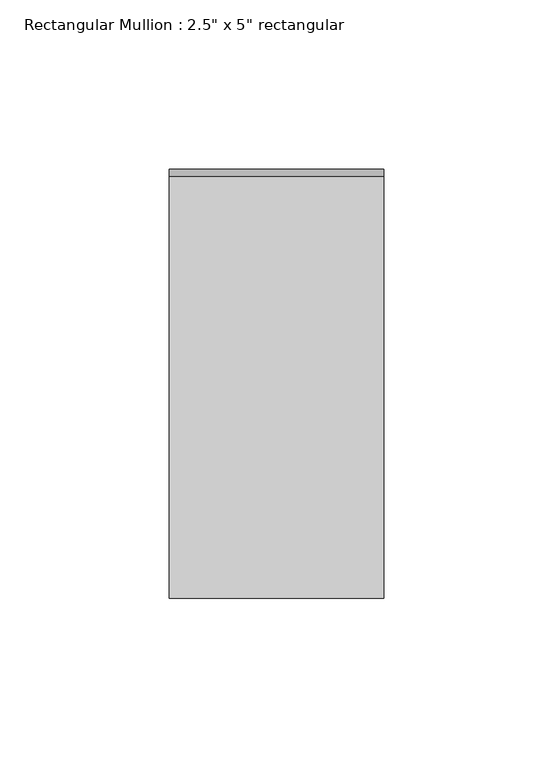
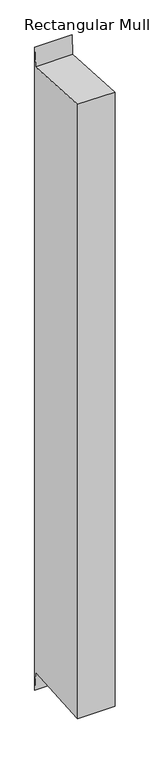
"""IFC4 building model written with IfcOpenShell, lengths in millimetres: member geometry."""

import ifcopenshell
import ifcopenshell.guid

model = None  # the IFC model being written
_history = None  # IfcOwnerHistory: only IFC2X3 demands one
_inside = {}  # id of a spatial element -> (the spatial element, [elements in it])
_under = {}  # id of a project, library or spatial element -> (it, [spatial elements below it])
_declared = {}  # id of a project -> (the project, [libraries it declares])
_typed = {}  # id of a type object -> (the type object, [elements of that type])
_made_of = {}  # id of a material, layer set ... -> (it, [elements and type objects made of it])


def new_model(schema):
    """Start an empty IFC model of exactly this schema.

    Asked for "IFC4X3", IfcOpenShell would pick the latest addendum, in which some entities
    have other attributes; the version numbers below select the first issue.
    IFC2X3 requires an IfcOwnerHistory on every rooted entity: one is made here for all.
    """
    global model, _history
    if schema == "IFC4X3":
        model = ifcopenshell.file(schema_version=(4, 3, 0, 0))
    else:
        model = ifcopenshell.file(schema=schema)
    _inside.clear()
    _under.clear()
    _declared.clear()
    _typed.clear()
    _made_of.clear()
    _history = None
    if model.schema == "IFC2X3":
        org = make("IfcOrganization", Name="unknown")
        user = make(
            "IfcPersonAndOrganization",
            ThePerson=make("IfcPerson", FamilyName="unknown"),
            TheOrganization=org,
        )
        app = make(
            "IfcApplication",
            ApplicationDeveloper=org,
            Version="unknown",
            ApplicationFullName="unknown",
            ApplicationIdentifier="unknown",
        )
        _history = make(
            "IfcOwnerHistory",
            OwningUser=user,
            OwningApplication=app,
            ChangeAction="ADDED",
            CreationDate=0,
        )
    return model


def make(cls, **values):
    """One entity of the class cls with the attributes given. An attribute that is None is left unset."""
    return model.create_entity(
        cls, **{name: value for name, value in values.items() if value is not None}
    )


def rooted(cls, **values):
    """An entity with a GlobalId (a new one), such as an element, a storey or a relation."""
    return make(cls, GlobalId=ifcopenshell.guid.new(), OwnerHistory=_history, **values)


def si_unit(unit_type, name, prefix=None):
    """IfcSIUnit, for example si_unit("LENGTHUNIT", "METRE", prefix="MILLI")."""
    return make("IfcSIUnit", UnitType=unit_type, Prefix=prefix, Name=name)


def assignment(units):
    """IfcUnitAssignment: the units of a project."""
    return None if units is None else make("IfcUnitAssignment", Units=units)


def point(xyz):
    """IfcCartesianPoint."""
    return None if xyz is None else make("IfcCartesianPoint", Coordinates=xyz)


def direction(xyz):
    """IfcDirection."""
    return None if xyz is None else make("IfcDirection", DirectionRatios=xyz)


def frame(location, z_axis=None, x_axis=None):
    """IfcAxis2Placement3D, a coordinate frame: its origin and axes. An axis left out is left unset."""
    return make(
        "IfcAxis2Placement3D",
        Location=point(location),
        Axis=direction(z_axis),
        RefDirection=direction(x_axis),
    )


def origin():
    """The frame at (0, 0, 0) with its axes left unset."""
    return frame((0.0, 0.0, 0.0))


def place(relative_to, where):
    """IfcLocalPlacement: puts the frame where relative to a parent placement (None: the world)."""
    return make(
        "IfcLocalPlacement", PlacementRelTo=relative_to, RelativePlacement=where
    )


def context(
    kind, dimensions, precision=None, world=None, true_north=None, identifier=None
):
    """IfcGeometricRepresentationContext, for example the 3D "Model" context."""
    return make(
        "IfcGeometricRepresentationContext",
        ContextIdentifier=identifier,
        ContextType=kind,
        CoordinateSpaceDimension=dimensions,
        Precision=precision,
        WorldCoordinateSystem=world,
        TrueNorth=true_north,
    )


def project(units=None, contexts=None):
    """IfcProject with its units and contexts."""
    return rooted(
        "IfcProject",
        Name="project",
        RepresentationContexts=contexts,
        UnitsInContext=assignment(units),
    )


def spatial(cls, under=None, at=None, **own):
    """A site, building, storey or space (cls), placed at a placement, below another one or the project."""
    s = rooted(cls, ObjectPlacement=at, **own)
    if under is not None:
        _under.setdefault(under.id(), (under, []))[1].append(s)
    return s


def polyline(points):
    """IfcPolyline through the points."""
    return make("IfcPolyline", Points=[point(p) for p in points])


def outline(outer, holes=None, kind="AREA"):
    """IfcArbitraryClosedProfileDef: a profile drawn as a closed curve; with holes, ...WithVoids."""
    if holes is None:
        return make("IfcArbitraryClosedProfileDef", ProfileType=kind, OuterCurve=outer)
    return make(
        "IfcArbitraryProfileDefWithVoids",
        ProfileType=kind,
        OuterCurve=outer,
        InnerCurves=holes,
    )


def extrude(swept, where, along, depth):
    """IfcExtrudedAreaSolid: the profile swept, set in the frame where, extruded along a direction by depth."""
    return make(
        "IfcExtrudedAreaSolid",
        SweptArea=swept,
        Position=where,
        ExtrudedDirection=direction(along),
        Depth=depth,
    )


def shape(context_of_items, identifier, shape_type, items):
    """IfcShapeRepresentation: the items that make up one representation, for example the "Body"."""
    return make(
        "IfcShapeRepresentation",
        ContextOfItems=context_of_items,
        RepresentationIdentifier=identifier,
        RepresentationType=shape_type,
        Items=items,
    )


def source(mapping_origin, context_of_items, identifier, shape_type, items):
    """IfcRepresentationMap: a shape defined once, which mapped items show again and again."""
    return make(
        "IfcRepresentationMap",
        MappingOrigin=mapping_origin,
        MappedRepresentation=shape(context_of_items, identifier, shape_type, items),
    )


def transform(
    local_origin,
    x_axis=None,
    y_axis=None,
    z_axis=None,
    scale=None,
    scale2=None,
    scale3=None,
    uniform=True,
):
    """IfcCartesianTransformationOperator3D, or its non-uniform kind. x_axis, y_axis, z_axis: its Axis1, 2, 3."""
    if uniform:
        return make(
            "IfcCartesianTransformationOperator3D",
            Axis1=direction(x_axis),
            Axis2=direction(y_axis),
            LocalOrigin=point(local_origin),
            Scale=scale,
            Axis3=direction(z_axis),
        )
    return make(
        "IfcCartesianTransformationOperator3DnonUniform",
        Axis1=direction(x_axis),
        Axis2=direction(y_axis),
        LocalOrigin=point(local_origin),
        Scale=scale,
        Axis3=direction(z_axis),
        Scale2=scale2,
        Scale3=scale3,
    )


def mapped(mapping_source, mapping_target):
    """IfcMappedItem: shows the shape of a source again, moved by a transform."""
    return make(
        "IfcMappedItem", MappingSource=mapping_source, MappingTarget=mapping_target
    )


def made_of(thing, what):
    """Note that an element or type object is made of a material, layer set ...; save() writes the relation."""
    if what is not None:
        _made_of.setdefault(what.id(), (what, []))[1].append(thing)
    return thing


def element(
    cls,
    number,
    at=None,
    inside=None,
    cuts=None,
    type_object=None,
    material=None,
    context=None,
    identifier="Body",
    shape_type=None,
    held_by="IfcProductDefinitionShape",
    body=None,
    shapes=None,
    **own,
):
    """One element of the class cls, such as IfcWall. Its Tag is "e" and its number.

    at: its placement. inside: the storey or other place that contains it. cuts: it is an
    opening in that element (IfcRelVoidsElement). A single representation is given by context,
    identifier, shape_type and body (its items); several are given by shapes. held_by: the class
    of the entity that holds the representations. save() writes the other relations.
    """
    e = rooted(cls, Tag="e%d" % number, ObjectPlacement=at, **own)
    if body is not None:
        shapes = [shape(context, identifier, shape_type, body)]
    if shapes is not None:
        e.Representation = make(held_by, Representations=shapes)
    if inside is not None:
        _inside.setdefault(inside.id(), (inside, []))[1].append(e)
    if cuts is not None:
        rooted(
            "IfcRelVoidsElement", RelatingBuildingElement=cuts, RelatedOpeningElement=e
        )
    if type_object is not None:
        _typed.setdefault(type_object.id(), (type_object, []))[1].append(e)
    return made_of(e, material)


def aggregate(whole, parts):
    """IfcRelAggregates: a whole, such as a stair, and the parts it consists of."""
    return rooted("IfcRelAggregates", RelatingObject=whole, RelatedObjects=parts)


def save(model, path):
    """Write the relations noted so far, then the file.

    IfcRelAggregates (storeys below a building ...), IfcRelContainedInSpatialStructure (elements
    in a storey), IfcRelDefinesByType, IfcRelAssociatesMaterial and IfcRelDeclares: one each for
    every whole, place, type object, material and project.
    """
    for whole, parts in _under.values():
        aggregate(whole, parts)
    for where, things in _inside.values():
        rooted(
            "IfcRelContainedInSpatialStructure",
            RelatedElements=things,
            RelatingStructure=where,
        )
    for kind, things in _typed.values():
        rooted("IfcRelDefinesByType", RelatedObjects=things, RelatingType=kind)
    for what, things in _made_of.values():
        rooted("IfcRelAssociatesMaterial", RelatedObjects=things, RelatingMaterial=what)
    for by, libraries in _declared.values():
        rooted("IfcRelDeclares", RelatingContext=by, RelatedDefinitions=libraries)
    model.write(path)


def member_56cb0dcd(model_context):
    return source(origin(), model_context, "Body", "SweptSolid", [
        extrude(outline(polyline([(-63.5, 3.9106228), (61.3936207, -3.902992), (63.5, 29.7655912), (63.5, -1127.5980916), (61.3936207, -1093.9295083), (-63.5, -1101.7431231), (-63.5, 3.9106228)])), frame((-63.5, 0.0, 0.0), z_axis=(1.0, 0.0, 0.0), x_axis=(0.0, 1.0, 0.0)), (0.0, 0.0, 1.0), 63.5),
    ])


if __name__ == "__main__":
    model = new_model("IFC4")
    model_context = context("Model", 3, world=origin())
    ifc_project = project(units=[si_unit("LENGTHUNIT", "METRE", prefix="MILLI")], contexts=[model_context])
    site = spatial("IfcSite", under=ifc_project)
    building = spatial("IfcBuilding", under=site)
    placement = place(None, origin())
    member_shape = member_56cb0dcd(model_context)
    element("IfcMember", 1, ObjectType="Rectangular Mullion : 2.5\" x 5\" rectangular", at=placement, inside=building, context=model_context, shape_type="MappedRepresentation", body=[
        mapped(member_shape, transform((0.0, 0.0, 0.0), x_axis=(1.0, 0.0, 0.0), y_axis=(0.0, 1.0, 0.0), z_axis=(0.0, 0.0, 1.0))),
    ])
    save(model, "model.ifc")
